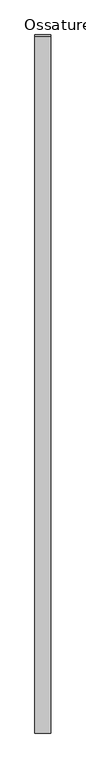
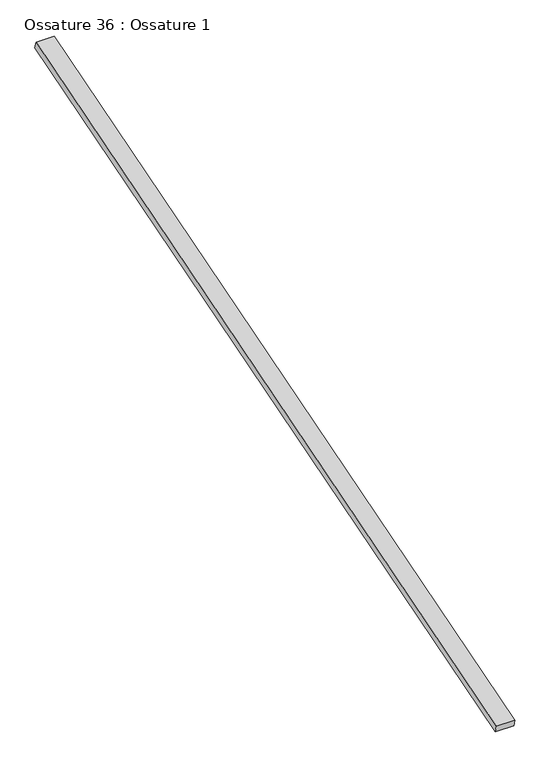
"""IFC4 building model written with IfcOpenShell, lengths in millimetres: beam geometry, Ossature 36 : Ossature 1."""

from ifc_helpers import new_model, si_unit, frame, origin, place, context, project, spatial, polyline, outline, extrude, source, transform, mapped, element, save


def ossature_36_ossature_1_1e7bddd9(model_context):
    return source(origin(), model_context, "Body", "SweptSolid", [
        extrude(outline(polyline([(0.0, 0.0), (0.0, -4543.0299679), (-100.0, -4543.0299679), (-100.0, 0.0), (0.0, 0.0)])), frame((8876.4466393, -833.3913565, 8153.6336115), z_axis=(0.0, -0.28734788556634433, 0.9578262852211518), x_axis=(-1.0, 0.0, 0.0)), (0.0, 0.0, 1.0), 40.0),
    ])


if __name__ == "__main__":
    model = new_model("IFC4")
    model_context = context("Model", 3, world=origin())
    ifc_project = project(units=[si_unit("LENGTHUNIT", "METRE", prefix="MILLI")], contexts=[model_context])
    site = spatial("IfcSite", under=ifc_project)
    building = spatial("IfcBuilding", under=site)
    placement = place(None, origin())
    ossature_36_ossature_1_shape = ossature_36_ossature_1_1e7bddd9(model_context)
    element("IfcBeam", 1, ObjectType="Ossature 36 : Ossature 1", at=placement, inside=building, context=model_context, shape_type="MappedRepresentation", body=[
        mapped(ossature_36_ossature_1_shape, transform((0.0, 0.0, 0.0), x_axis=(1.0, 0.0, 0.0), y_axis=(0.0, 1.0, 0.0), z_axis=(0.0, 0.0, 1.0))),
    ])
    save(model, "model.ifc")
